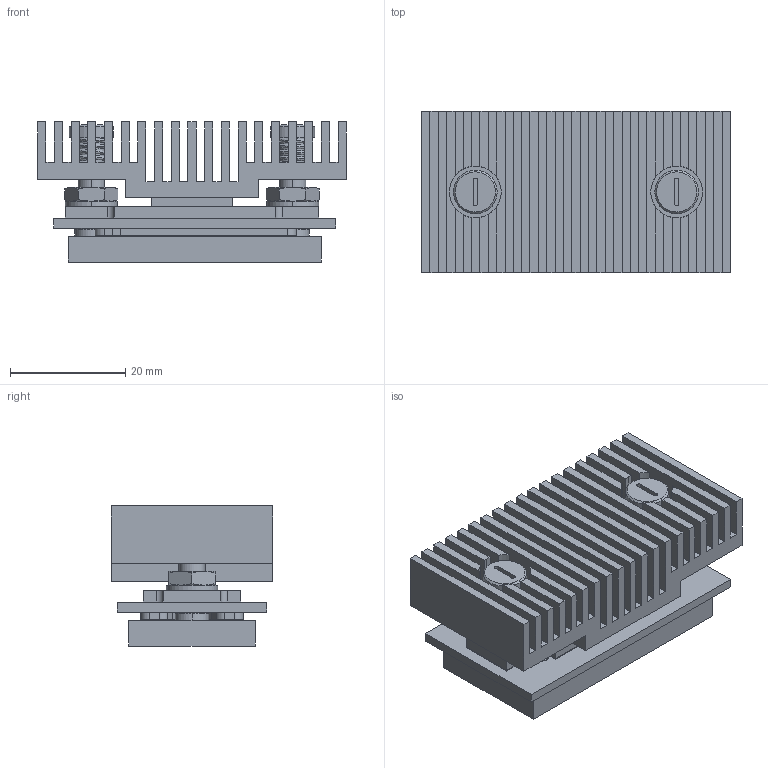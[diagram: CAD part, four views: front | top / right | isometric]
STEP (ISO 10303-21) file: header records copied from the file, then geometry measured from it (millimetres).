
FILE_DESCRIPTION (( 'STEP AP214' ), '1' );
FILE_NAME ('2516537.STEP', '2021-03-27T14:13:09', ( '' ), ( '' ), 'SwSTEP 2.0', 'SolidWorks 2021', '' );
FILE_SCHEMA (( 'AUTOMOTIVE_DESIGN' ));
Length unit declared in the file: millimetre
Products named in the file (23): PCB Elec-Pad-Assy-317; 2515392; 2516554-PCB-Raw-s317; 2515396; 2515388; 2516537; SymPadA-s317; 2515390-Compressed; Ceramic-47-4K-s317; Coil-Spring-s316; 2515399-Compressed; 2515395; Window-47-4K-s317; 47-4K-s317-DMD-Assy-wPads_w Datum A  no Window; 2515398; Datum-A-s317; 2516554; PCB-Elec-Pad-s317-DMD; 2515386; 2512939-Comp; Elec-Pad-s317-DMD; Test-Elec-Pad-s317; 2515389
Assembly tree (532 placements, depth 4):
  2516537
    2515388
    47-4K-s317-DMD-Assy-wPads_w Datum A  no Window
      Ceramic-47-4K-s317
      Window-47-4K-s317
      Elec-Pad-s317-DMD  x238
      Test-Elec-Pad-s317  x32
      Datum-A-s317
      SymPadA-s317
    2515386
    2516554
      2516554-PCB-Raw-s317
      PCB Elec-Pad-Assy-317
        PCB-Elec-Pad-s317-DMD  x238
    2515395
    2515392
    2515398  x2
    2515396  x2
    2515390-Compressed
    2515389
    2515399-Compressed  x2
    Coil-Spring-s316  x2
    2512939-Comp  x2
Bounding box: 53.6 x 28 x 24.36 mm (x, y, z)
Volume: 19117.8 mm3; surface area: 25512.5 mm2
Topology: 536 solids, 536 shells, 4153 faces, 9062 edges, 6003 vertices
Faces by surface type: plane 3324, cylinder 736, cone 61, torus 20, bspline 12
Entity records: 43875 total; most frequent: CARTESIAN_POINT 8573, DIRECTION 7584, ORIENTED_EDGE 6006, AXIS2_PLACEMENT_3D 3006, EDGE_CURVE 3003, VERTEX_POINT 1980, EDGE_LOOP 1659, LINE 1572
